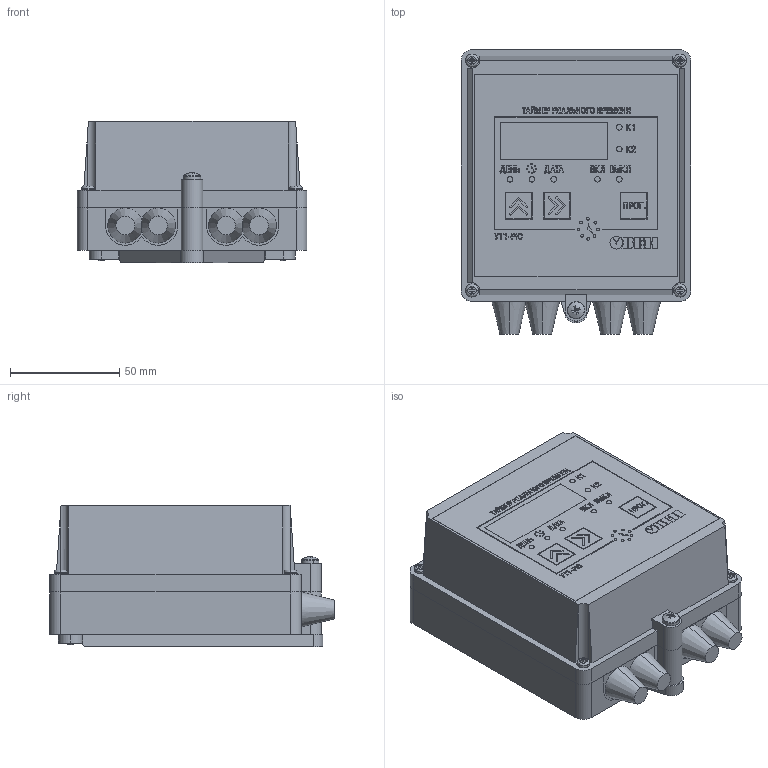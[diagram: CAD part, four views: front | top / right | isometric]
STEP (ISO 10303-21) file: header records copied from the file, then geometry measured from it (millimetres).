
FILE_DESCRIPTION (( 'STEP AP214' ), '1' );
FILE_NAME ('3D Ìîäåëü ÓÒ1-Í.STEP', '2015-09-14T07:12:31', ( '' ), ( '' ), 'SwSTEP 2.0', 'SolidWorks 2013', '' );
FILE_SCHEMA (( 'AUTOMOTIVE_DESIGN' ));
Length unit declared in the file: millimetre
Products named in the file (10): ч蜱齁膱; Êîðïóñ Í_íèç; 扻豵鵨 狉瞂贂; 3D Ìîäåëü ÓÒ1-Í; Ïàíåëü ëèöåâàÿ ÓÒ1-Í; 睯艜 膴樖樉; 鎔艜_B18.6.7M - M4 x 0.7 x 40 Type I Cross Recessed PHMS --40N; 鎔艜 襞旂 17473_M4x10; 砑鳧罻; ﾊ煇鳫
Assembly tree (14 placements, depth 2):
  3D Ìîäåëü ÓÒ1-Í
    扻豵鵨 狉瞂贂
    Êîðïóñ Í_íèç
    ч蜱齁膱  x2
    ﾊ煇鳫
    砑鳧罻
    鎔艜 襞旂 17473_M4x10  x2
    鎔艜_B18.6.7M - M4 x 0.7 x 40 Type I Cross Recessed PHMS --40N
    睯艜 膴樖樉  x4
    Ïàíåëü ëèöåâàÿ ÓÒ1-Í
Bounding box: 105 x 130 x 64.6 mm (x, y, z)
Volume: 153258 mm3; surface area: 130687.1 mm2
Topology: 14 solids, 14 shells, 1393 faces, 3625 edges, 2402 vertices
Faces by surface type: plane 951, bspline 269, cylinder 129, cone 20, torus 20, sphere 4
Entity records: 53200 total; most frequent: CARTESIAN_POINT 10539, ORIENTED_EDGE 6702, DIRECTION 5110, EDGE_CURVE 3351, VECTOR 2492, LINE 2492, VERTEX_POINT 2226, EDGE_LOOP 1443
